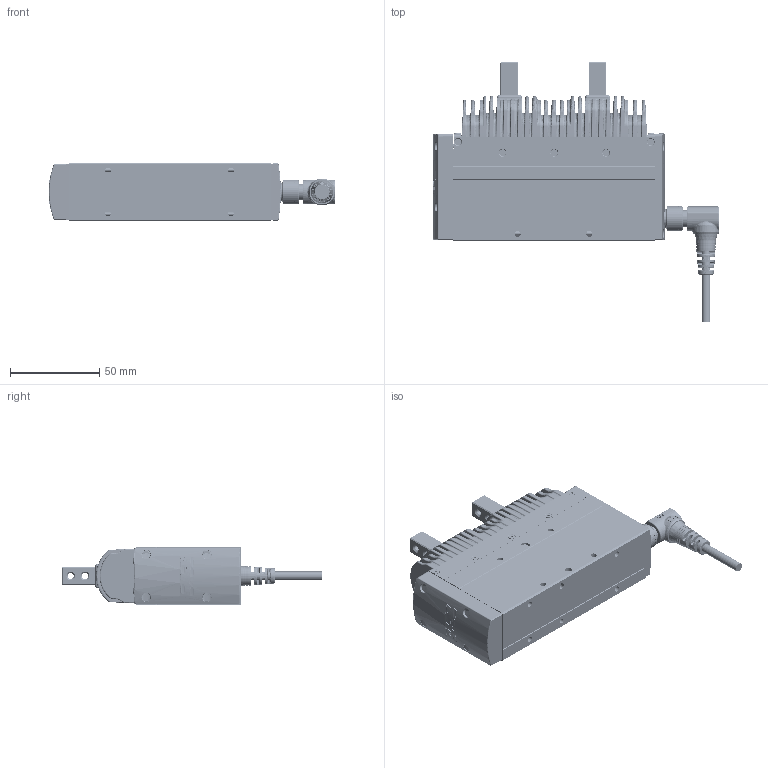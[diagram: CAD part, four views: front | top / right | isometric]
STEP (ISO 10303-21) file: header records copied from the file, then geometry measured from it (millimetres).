
FILE_DESCRIPTION(/* description */ ('STEP AP203'),/* implementation_level */ '2;1');
FILE_NAME(/* name */ 'D:\2025.02.25 帶電匯整給泊舟\3. CHS2系列\4.3D組立\CHS2C-S40-WW.stp',/* time_stamp */ '2025-02-25T18:26:17+08:00',/* author */ ('T10033'),/* organization */ (''),/* preprocessor_version */ 'ST-DEVELOPER v18.1',/* originating_system */ 'Autodesk Inventor 2020',/* authorisation */ '');
FILE_SCHEMA (('CONFIG_CONTROL_DESIGN'));
Products named in the file (6): CHS2C-S40; 12005-000077; 22149-000009-02; 慶陞M12金屬頭; 26TE3Y6DE4R5_Shrinkwrap_1; M12-14PIN 線端90度接頭-05中繼線
Assembly tree (6 placements, depth 2):
  CHS2C-S40
    12005-000077  x2
    22149-000009-02
    慶陞M12金屬頭
    26TE3Y6DE4R5_Shrinkwrap_1
    M12-14PIN 線端90度接頭-05中繼線
Bounding box: 160.72 x 145.95 x 33 mm (x, y, z)
Volume: 246724.7 mm3; surface area: 84498.6 mm2
Topology: 20 solids, 25 shells, 5301 faces, 13888 edges, 8682 vertices
Faces by surface type: plane 1742, bspline 1455, cylinder 1439, cone 404, torus 223, sphere 38
Full cylindrical faces by diameter (mm): 0.6 x14, 0.65 x14, 1 x14, 2 x31, 2.2 x14, 2.5 x42, 3 x5, 3.2 x8, 3.3 x16, 3.8 x9, 4 x6, 4.5 x2, 5 x1, 8 x1, 8.9 x1, 9.5 x2, 9.6 x1, 10.5 x2, 10.9 x1, 11 x2, 11.2 x1, 11.25 x1, 12 x1, 13 x1, 13.8 x1, 14 x2, 14.4 x1, 16.482 x1
Entity records: 249037 total; most frequent: CARTESIAN_POINT 124154, ORIENTED_EDGE 27098, DIRECTION 24603, EDGE_CURVE 13567, AXIS2_PLACEMENT_3D 9730, VERTEX_POINT 8541, EDGE_LOOP 5564, FACE_OUTER_BOUND 5225
